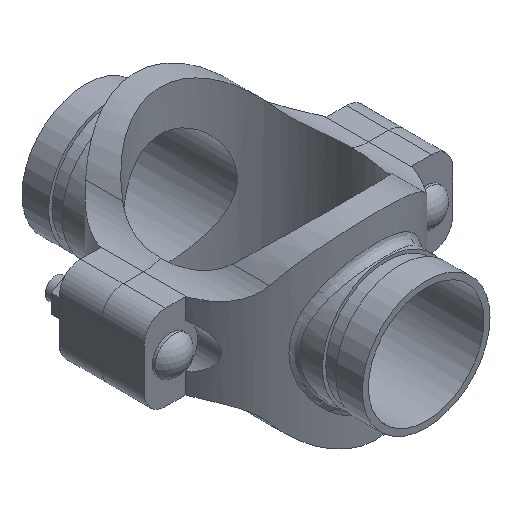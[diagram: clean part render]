
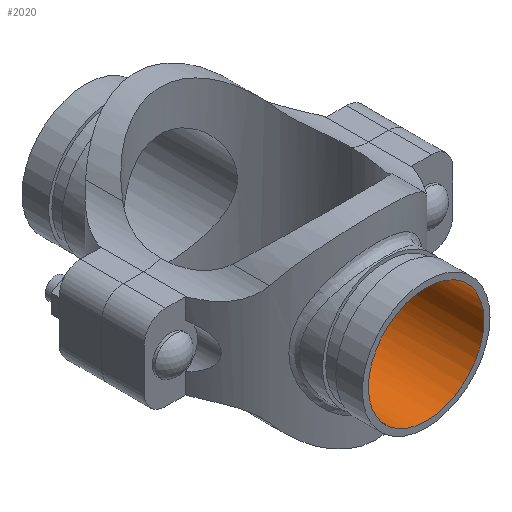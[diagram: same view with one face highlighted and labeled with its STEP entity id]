
A CAD part, isometric view. The second image highlights one B-rep face of the part: STEP entity #2020.
In plain terms, the highlighted cylindrical face has radius 34.493 mm (diameter 68.986 mm), a full revolution.
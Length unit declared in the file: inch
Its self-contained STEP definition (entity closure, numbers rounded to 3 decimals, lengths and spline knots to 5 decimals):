
#52=B_SPLINE_CURVE_WITH_KNOTS('',3,(#4172,#4173,#4174,#4175,#4176,#4177,
#4178,#4179,#4180,#4181,#4182,#4183,#4184,#4185,#4186,#4187,#4188,#4189,
#4190,#4191,#4192,#4193,#4194,#4195,#4196,#4197,#4198,#4199,#4200,#4201,
#4202,#4203,#4204,#4205,#4206,#4207,#4208,#4209,#4210,#4211,#4212,#4213,
#4214,#4215,#4216,#4217,#4218,#4219,#4220,#4221,#4222,#4223,#4224,#4225,
#4226,#4227,#4228,#4229,#4230,#4231,#4232,#4233,#4234,#4235,#4236,#4237),
 .UNSPECIFIED.,.T.,.F.,(4,2,2,2,2,2,2,2,2,2,2,2,2,2,2,2,2,2,2,2,2,2,2,2,
2,2,2,2,2,2,2,2,4),(0.,0.67276,1.34552,2.01828,
2.69104,3.35933,4.02762,4.69591,5.3642,
6.03249,6.70078,7.36907,8.03736,8.71012,
9.38288,10.05564,10.7284,11.40116,12.07392,
12.74667,13.41943,14.08772,14.75601,15.4243,
16.0926,16.76089,17.42918,18.09747,18.76576,
19.43852,20.11128,20.78403,21.45679),
 .UNSPECIFIED.);
#99=CYLINDRICAL_SURFACE('',#2261,1.358);
#218=FACE_OUTER_BOUND('',#342,.T.);
#342=EDGE_LOOP('',(#1624,#1625,#1626,#1627));
#494=LINE('',#4171,#644);
#644=VECTOR('',#2736,1.358);
#748=CIRCLE('',#2262,1.358);
#917=VERTEX_POINT('',#4168);
#918=VERTEX_POINT('',#4170);
#1168=EDGE_CURVE('',#917,#917,#748,.T.);
#1169=EDGE_CURVE('',#917,#918,#494,.T.);
#1170=EDGE_CURVE('',#918,#918,#52,.T.);
#1624=ORIENTED_EDGE('',*,*,#1168,.F.);
#1625=ORIENTED_EDGE('',*,*,#1169,.T.);
#1626=ORIENTED_EDGE('',*,*,#1170,.F.);
#1627=ORIENTED_EDGE('',*,*,#1169,.F.);
#2020=ADVANCED_FACE('',(#218),#99,.F.);
#2261=AXIS2_PLACEMENT_3D('',#4167,#2732,#2733);
#2262=AXIS2_PLACEMENT_3D('',#4169,#2734,#2735);
#2732=DIRECTION('center_axis',(0.,-1.,0.));
#2733=DIRECTION('ref_axis',(-1.,0.,0.));
#2734=DIRECTION('center_axis',(0.,-1.,0.));
#2735=DIRECTION('ref_axis',(-1.,0.,0.));
#2736=DIRECTION('',(0.,-1.,0.));
#4167=CARTESIAN_POINT('Origin',(0.,4.,0.));
#4168=CARTESIAN_POINT('',(1.358,4.,0.));
#4169=CARTESIAN_POINT('Origin',(0.,4.,0.));
#4170=CARTESIAN_POINT('',(1.358,1.79397,0.));
#4171=CARTESIAN_POINT('',(1.358,4.,0.));
#4172=CARTESIAN_POINT('Ctrl Pts',(1.358,1.79397,0.));
#4173=CARTESIAN_POINT('Ctrl Pts',(1.358,1.79397,-0.08829));
#4174=CARTESIAN_POINT('Ctrl Pts',(1.34926,1.80069,-0.17844));
#4175=CARTESIAN_POINT('Ctrl Pts',(1.31367,1.82682,-0.35585));
#4176=CARTESIAN_POINT('Ctrl Pts',(1.28683,1.84617,-0.44313));
#4177=CARTESIAN_POINT('Ctrl Pts',(1.21699,1.89294,-0.60928));
#4178=CARTESIAN_POINT('Ctrl Pts',(1.17393,1.92032,-0.68833));
#4179=CARTESIAN_POINT('Ctrl Pts',(1.07518,1.9773,-0.83421));
#4180=CARTESIAN_POINT('Ctrl Pts',(1.01947,2.00686,-0.90103));
#4181=CARTESIAN_POINT('Ctrl Pts',(0.90142,2.06256,-1.01908));
#4182=CARTESIAN_POINT('Ctrl Pts',(0.8348,2.09084,-1.07473));
#4183=CARTESIAN_POINT('Ctrl Pts',(0.68888,2.14335,-1.17362));
#4184=CARTESIAN_POINT('Ctrl Pts',(0.60957,2.16755,-1.21687));
#4185=CARTESIAN_POINT('Ctrl Pts',(0.44284,2.20766,-1.28695));
#4186=CARTESIAN_POINT('Ctrl Pts',(0.35525,2.22358,-1.31383));
#4187=CARTESIAN_POINT('Ctrl Pts',(0.17768,2.24475,-1.34937));
#4188=CARTESIAN_POINT('Ctrl Pts',(0.0877,2.25,-1.358));
#4189=CARTESIAN_POINT('Ctrl Pts',(-0.0877,2.25,-1.358));
#4190=CARTESIAN_POINT('Ctrl Pts',(-0.17768,2.24475,-1.34937));
#4191=CARTESIAN_POINT('Ctrl Pts',(-0.35525,2.22358,-1.31383));
#4192=CARTESIAN_POINT('Ctrl Pts',(-0.44284,2.20766,-1.28695));
#4193=CARTESIAN_POINT('Ctrl Pts',(-0.60957,2.16755,-1.21687));
#4194=CARTESIAN_POINT('Ctrl Pts',(-0.68888,2.14335,-1.17362));
#4195=CARTESIAN_POINT('Ctrl Pts',(-0.8348,2.09084,-1.07473));
#4196=CARTESIAN_POINT('Ctrl Pts',(-0.90142,2.06256,-1.01908));
#4197=CARTESIAN_POINT('Ctrl Pts',(-1.01947,2.00686,-0.90103));
#4198=CARTESIAN_POINT('Ctrl Pts',(-1.07518,1.9773,-0.83421));
#4199=CARTESIAN_POINT('Ctrl Pts',(-1.17393,1.92032,-0.68833));
#4200=CARTESIAN_POINT('Ctrl Pts',(-1.21699,1.89294,-0.60928));
#4201=CARTESIAN_POINT('Ctrl Pts',(-1.28683,1.84617,-0.44313));
#4202=CARTESIAN_POINT('Ctrl Pts',(-1.31367,1.82682,-0.35585));
#4203=CARTESIAN_POINT('Ctrl Pts',(-1.34926,1.80069,-0.17844));
#4204=CARTESIAN_POINT('Ctrl Pts',(-1.358,1.79397,-0.08829));
#4205=CARTESIAN_POINT('Ctrl Pts',(-1.358,1.79397,0.08829));
#4206=CARTESIAN_POINT('Ctrl Pts',(-1.34926,1.80069,0.17844));
#4207=CARTESIAN_POINT('Ctrl Pts',(-1.31367,1.82682,0.35585));
#4208=CARTESIAN_POINT('Ctrl Pts',(-1.28683,1.84617,0.44313));
#4209=CARTESIAN_POINT('Ctrl Pts',(-1.21699,1.89294,0.60928));
#4210=CARTESIAN_POINT('Ctrl Pts',(-1.17393,1.92032,0.68833));
#4211=CARTESIAN_POINT('Ctrl Pts',(-1.07518,1.9773,0.83421));
#4212=CARTESIAN_POINT('Ctrl Pts',(-1.01947,2.00686,0.90103));
#4213=CARTESIAN_POINT('Ctrl Pts',(-0.90142,2.06256,1.01908));
#4214=CARTESIAN_POINT('Ctrl Pts',(-0.8348,2.09084,1.07473));
#4215=CARTESIAN_POINT('Ctrl Pts',(-0.68888,2.14335,1.17362));
#4216=CARTESIAN_POINT('Ctrl Pts',(-0.60957,2.16755,1.21687));
#4217=CARTESIAN_POINT('Ctrl Pts',(-0.44284,2.20766,1.28695));
#4218=CARTESIAN_POINT('Ctrl Pts',(-0.35525,2.22358,1.31383));
#4219=CARTESIAN_POINT('Ctrl Pts',(-0.17768,2.24475,1.34937));
#4220=CARTESIAN_POINT('Ctrl Pts',(-0.0877,2.25,1.358));
#4221=CARTESIAN_POINT('Ctrl Pts',(0.0877,2.25,1.358));
#4222=CARTESIAN_POINT('Ctrl Pts',(0.17768,2.24475,1.34937));
#4223=CARTESIAN_POINT('Ctrl Pts',(0.35525,2.22358,1.31383));
#4224=CARTESIAN_POINT('Ctrl Pts',(0.44284,2.20766,1.28695));
#4225=CARTESIAN_POINT('Ctrl Pts',(0.60957,2.16755,1.21687));
#4226=CARTESIAN_POINT('Ctrl Pts',(0.68888,2.14335,1.17362));
#4227=CARTESIAN_POINT('Ctrl Pts',(0.8348,2.09084,1.07473));
#4228=CARTESIAN_POINT('Ctrl Pts',(0.90142,2.06256,1.01908));
#4229=CARTESIAN_POINT('Ctrl Pts',(1.01947,2.00686,0.90103));
#4230=CARTESIAN_POINT('Ctrl Pts',(1.07518,1.9773,0.83421));
#4231=CARTESIAN_POINT('Ctrl Pts',(1.17393,1.92032,0.68833));
#4232=CARTESIAN_POINT('Ctrl Pts',(1.21699,1.89294,0.60928));
#4233=CARTESIAN_POINT('Ctrl Pts',(1.28683,1.84617,0.44313));
#4234=CARTESIAN_POINT('Ctrl Pts',(1.31367,1.82682,0.35585));
#4235=CARTESIAN_POINT('Ctrl Pts',(1.34926,1.80069,0.17844));
#4236=CARTESIAN_POINT('Ctrl Pts',(1.358,1.79397,0.08829));
#4237=CARTESIAN_POINT('Ctrl Pts',(1.358,1.79397,0.));
